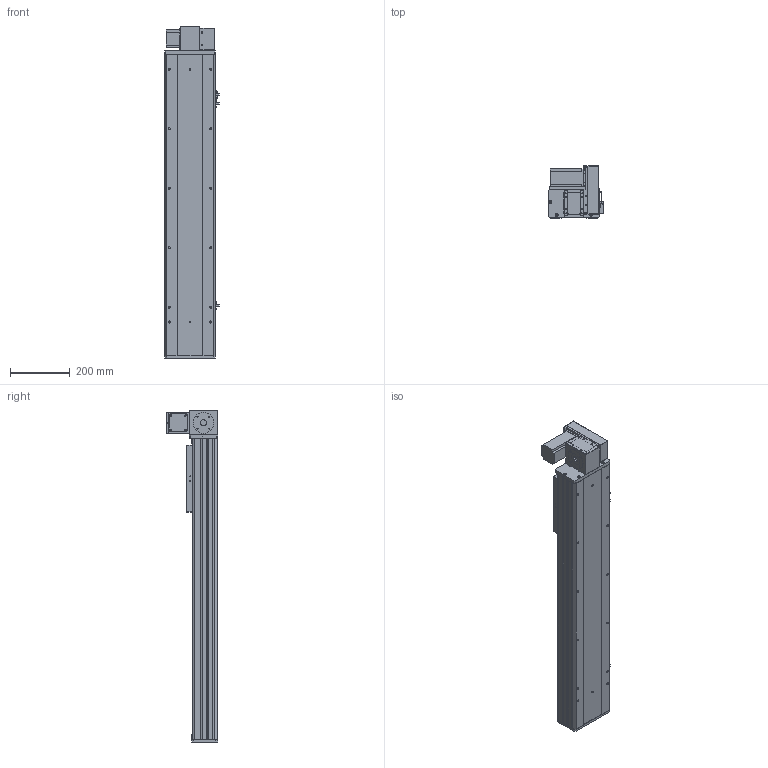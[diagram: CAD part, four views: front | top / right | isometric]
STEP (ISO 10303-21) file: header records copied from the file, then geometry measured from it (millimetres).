
FILE_DESCRIPTION (( 'STEP AP203' ), '1' );
FILE_NAME ('Y170CB-D105-S700-UR-P400W.STEP', '2020-02-20T03:58:05', ( '微软用户' ), ( '微软中国' ), 'SwSTEP 2.0', 'SolidWorks 2017', '' );
FILE_SCHEMA (( 'CONFIG_CONTROL_DESIGN' ));
Length unit declared in the file: millimetre
Products named in the file (18): san松下电机400不带刹车----; Y100-135俋离換覜ん--; 70CB-掛极-; Y170CB-陔俋离換覜結え---; --70CB --喘謫眊楊擘啣-; Y1埴倛裔; 70CB-耜裔啣-; 17B-耜蚾蟀諉啣----; 70C--詩湍揤踡え-; 00B-俋欶BM--163; 70CB--耜裔; 70B喘謫眊----; 70C-雄赽釱-奻-; B-源倛裔啣; Y170CB-D105-S700-UR-P400W; 0C--雄赽釱俋欶-170; 0B-萇儂楊擘啣; 70CB-詩湍--
Assembly tree (21 placements, depth 2):
  Y170CB-D105-S700-UR-P400W
    B-源倛裔啣
    0B-萇儂楊擘啣
    san松下电机400不带刹车----
    70CB-掛极-
    --70CB --喘謫眊楊擘啣-
    70CB-耜裔啣-  x2
    70C--詩湍揤踡え-  x2
    70CB--耜裔
    70C-雄赽釱-奻-
    0C--雄赽釱俋欶-170
    70CB-詩湍--
    Y100-135俋离換覜ん--  x3
    Y170CB-陔俋离換覜結え---
    Y1埴倛裔
    17B-耜蚾蟀諉啣----
    00B-俋欶BM--163
    70B喘謫眊----
Bounding box: 183.5 x 174 x 1116 mm (x, y, z)
Volume: 5357712.6 mm3; surface area: 1913918.3 mm2
Topology: 21 solids, 21 shells, 999 faces, 2669 edges, 1770 vertices
Faces by surface type: cylinder 513, plane 462, cone 24
Entity records: 31744 total; most frequent: CARTESIAN_POINT 5796, DIRECTION 5162, ORIENTED_EDGE 4820, EDGE_CURVE 2410, AXIS2_PLACEMENT_3D 1888, VERTEX_POINT 1600, VECTOR 1386, LINE 1386
